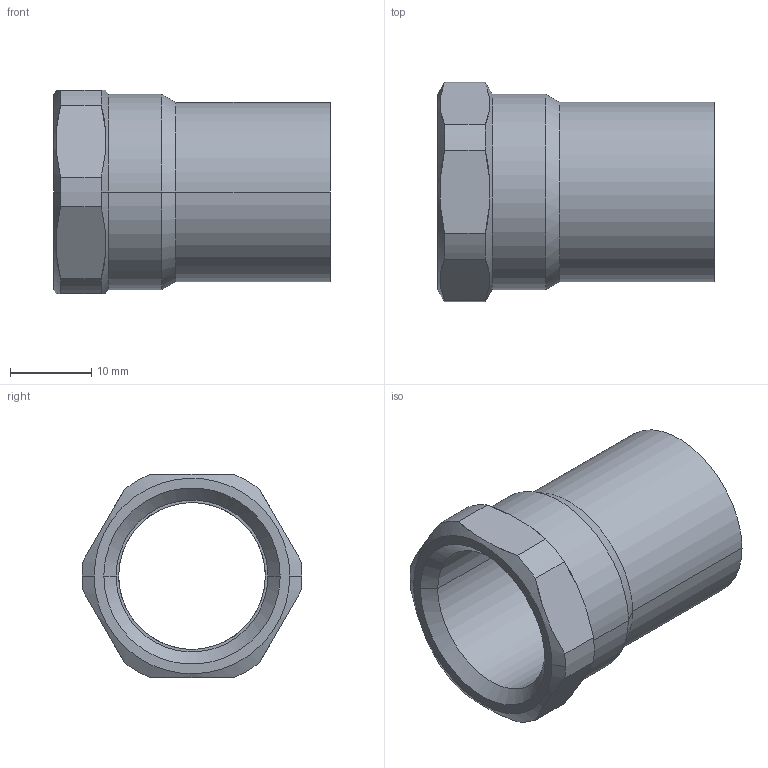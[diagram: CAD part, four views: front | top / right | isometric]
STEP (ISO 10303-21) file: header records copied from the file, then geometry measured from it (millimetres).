
FILE_DESCRIPTION((''),'2;1');
FILE_NAME('14246_22-12(2)_3.stp','2009-02-02T16:52:14',(''),(''),'Mechanical Desktop 2009','Mechanical Desktop 2009',', , ');
FILE_SCHEMA(('CONFIG_CONTROL_DESIGN'));
Length unit declared in the file: millimetre
Products named in the file (2): ZEICHNUNG1; 14246_22-12(2)
Assembly tree (1 placements, depth 2):
  ZEICHNUNG1
    14246_22-12(2)
Bounding box: 34 x 27 x 25 mm (x, y, z)
Surface area: 4824.2 mm2 (no closed solid volume)
Topology: 0 solids, 0 shells, 31 faces, 152 edges, 152 vertices
Faces by surface type: bspline 31
Entity records: 1734 total; most frequent: CARTESIAN_POINT 1234, COMPOSITE_CURVE_SEGMENT 152, QUASI_UNIFORM_CURVE 92, PCURVE 52, OUTER_BOUNDARY_CURVE 31, CURVE_BOUNDED_SURFACE 31, B_SPLINE_CURVE_WITH_KNOTS 16, QUASI_UNIFORM_SURFACE 9
